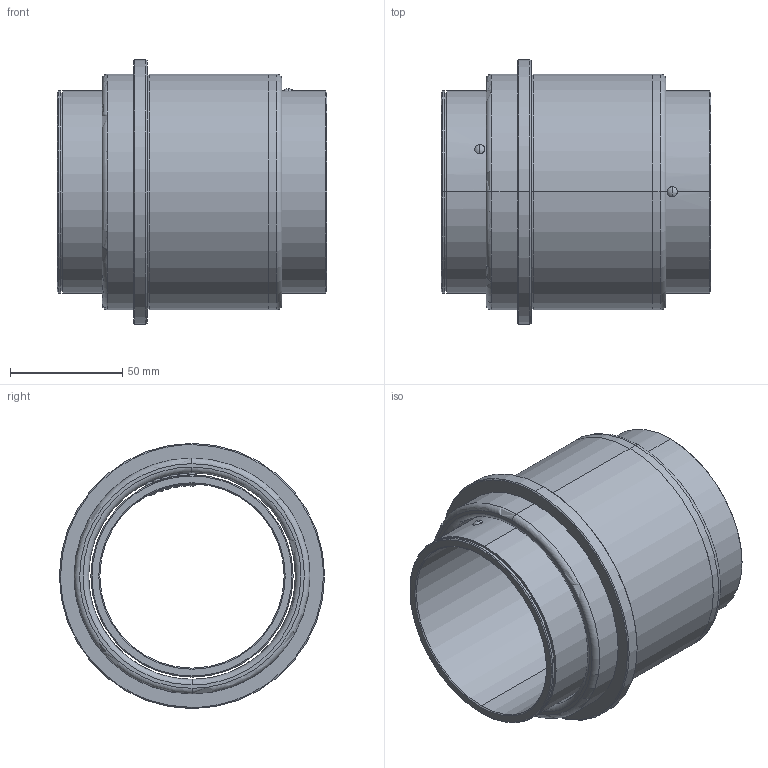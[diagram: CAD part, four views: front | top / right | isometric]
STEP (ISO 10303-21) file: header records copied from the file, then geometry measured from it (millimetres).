
FILE_DESCRIPTION(('CATIA V5 STEP Exchange'),'2;1');
FILE_NAME('C:\Users\Utente\Desktop\IO LAVORO\3D X SITO CF\X SITO\732\732-80.stp','2021-01-10T19:14:20+00:00',('none'),('none'),'CATIA Version 5 Release 20 GA (IN-10)','CATIA V5 STEP AP203','none');
FILE_SCHEMA(('CONFIG_CONTROL_DESIGN'));
Length unit declared in the file: millimetre
Products named in the file (1): 732-80
Assembly tree (2 placements, depth 2):
  732-80
    #58
    #1567
Bounding box: 120 x 118 x 118 mm (x, y, z)
Volume: 301978.2 mm3; surface area: 124389.4 mm2
Topology: 2 solids, 2 shells, 74 faces, 244 edges, 190 vertices
Faces by surface type: sphere 24, cylinder 20, cone 12, plane 10, torus 8
Entity records: 3408 total; most frequent: CARTESIAN_POINT 1223, ORIENTED_EDGE 488, DIRECTION 340, EDGE_CURVE 244, AXIS2_PLACEMENT_3D 228, VERTEX_POINT 190, CIRCLE 150, EDGE_LOOP 94
